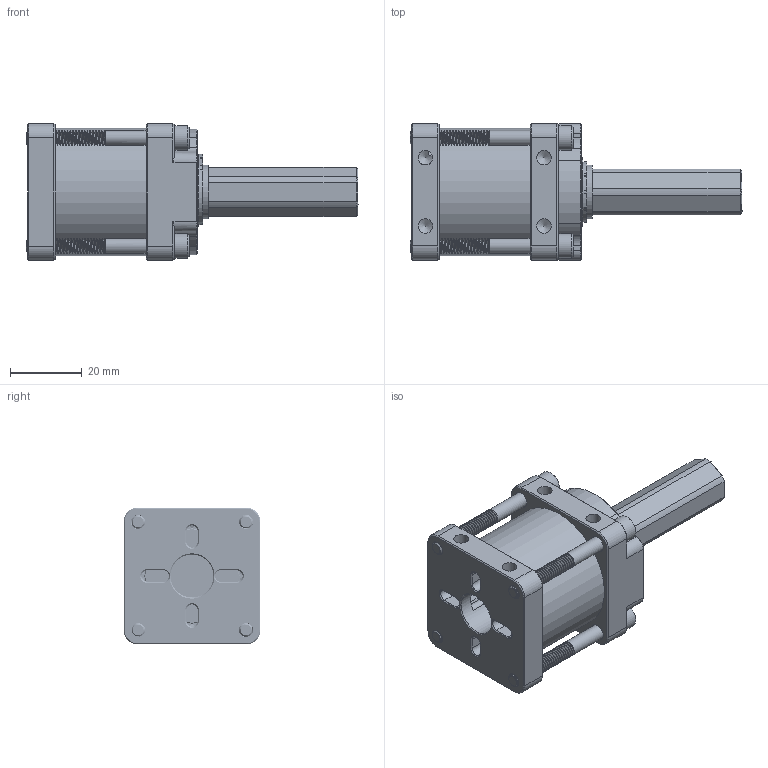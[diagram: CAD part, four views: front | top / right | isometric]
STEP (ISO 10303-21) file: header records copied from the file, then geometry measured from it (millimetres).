
FILE_DESCRIPTION(/* description */ (''),/* implementation_level */ '2;1');
FILE_NAME(/* name */ 'BeeBox CAD.step',/* time_stamp */ '2025-12-20T17:04:38-05:00',/* author */ (''),/* organization */ (''),/* preprocessor_version */ 'ST-DEVELOPER v20.1',/* originating_system */ 'Autodesk Translation Framework v14.21.0.0',/* authorisation */ '');
FILE_SCHEMA (('AUTOMOTIVE_DESIGN { 1 0 10303 214 3 1 1 }'));
Products named in the file (11): BeeBox CAD; Ring Gear; FacePlate; 5972K155_Ball Bearing_5972K155; 98541A410_External Retaining Ring_98541A410; 5972K166_Ball Bearing_5972K166; Shaft Washer Mk6; BackPlate; 91864A027_Black-Oxide Alloy Steel Socket Head Screw; Faceplate with face screws; 27:1shaft
Assembly tree (13 placements, depth 3):
  BeeBox CAD
    Ring Gear
    FacePlate
      5972K155_Ball Bearing_5972K155
      98541A410_External Retaining Ring_98541A410
      5972K166_Ball Bearing_5972K166
      Shaft Washer Mk6
    BackPlate
    91864A027_Black-Oxide Alloy Steel Socket Head Screw  x4
    Faceplate with face screws
    27:1shaft
Bounding box: 92.49 x 38.1 x 38.1 mm (x, y, z)
Volume: 44811.9 mm3; surface area: 35150.6 mm2
Topology: 44 solids, 44 shells, 1401 faces, 3791 edges, 2457 vertices
Faces by surface type: cylinder 473, plane 465, cone 251, bspline 100, torus 90, sphere 22
Full cylindrical faces by diameter (mm): 1.7 x2, 2.5 x4, 3.134 x104, 3.416 x8, 4 x3, 4.067 x9, 4.166 x112, 4.496 x4, 6.858 x4, 12 x1, 14.3 x1, 15 x4, 15.5 x1, 16.772 x4, 17.33 x2, 17.56 x4, 18 x1, 18.294 x2, 19 x1, 20.661 x2, 20.895 x2, 21.452 x4, 22.228 x2, 22.5 x1, 23.284 x2, 23.602 x2, 24 x2, 24.336 x4, 25.44 x2, 26 x1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
Entity records: 58960 total; most frequent: CARTESIAN_POINT 29340, DIRECTION 6213, ORIENTED_EDGE 6174, EDGE_CURVE 3087, AXIS2_PLACEMENT_3D 2388, VERTEX_POINT 2037, LINE 1437, VECTOR 1437
